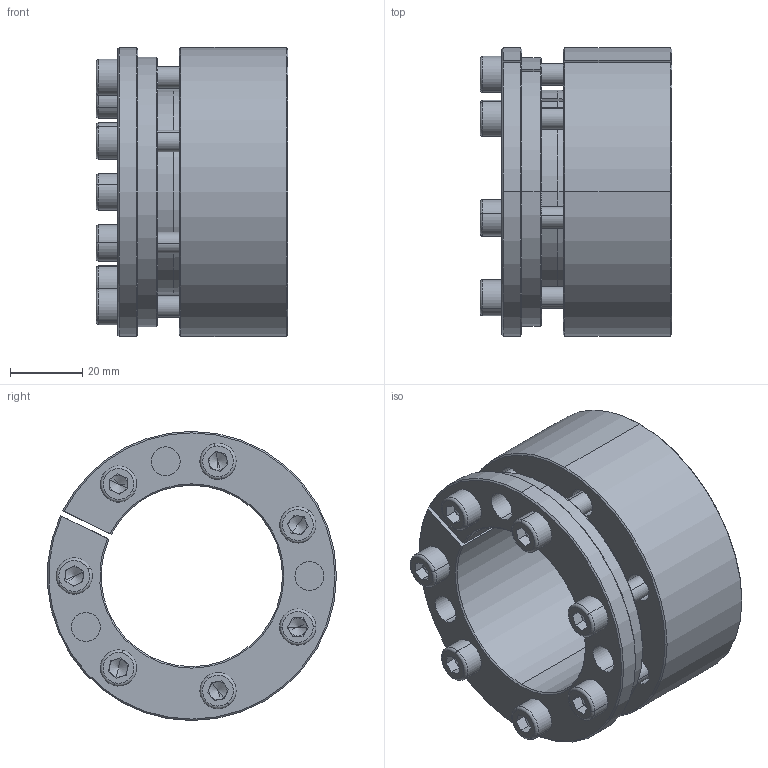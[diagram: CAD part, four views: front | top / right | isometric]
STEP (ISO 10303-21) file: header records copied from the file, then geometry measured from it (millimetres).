
FILE_DESCRIPTION (( 'STEP AP214' ), '1' );
FILE_NAME ('PL-H2 50-80.STEP', '2022-07-25T02:07:35', ( '' ), ( '' ), 'SwSTEP 2.0', 'SolidWorks 2022', '' );
FILE_SCHEMA (( 'AUTOMOTIVE_DESIGN' ));
Length unit declared in the file: millimetre
Products named in the file (1): PL-H2 50-80
Bounding box: 53 x 79.8 x 79.9 mm (x, y, z)
Volume: 113569.8 mm3; surface area: 42774.4 mm2
Topology: 1 solids, 1 shells, 268 faces, 657 edges, 398 vertices
Faces by surface type: plane 113, cylinder 77, cone 64, torus 14
Entity records: 7894 total; most frequent: DIRECTION 1462, CARTESIAN_POINT 1382, ORIENTED_EDGE 1286, EDGE_CURVE 643, AXIS2_PLACEMENT_3D 574, VERTEX_POINT 398, VECTOR 314, LINE 314
